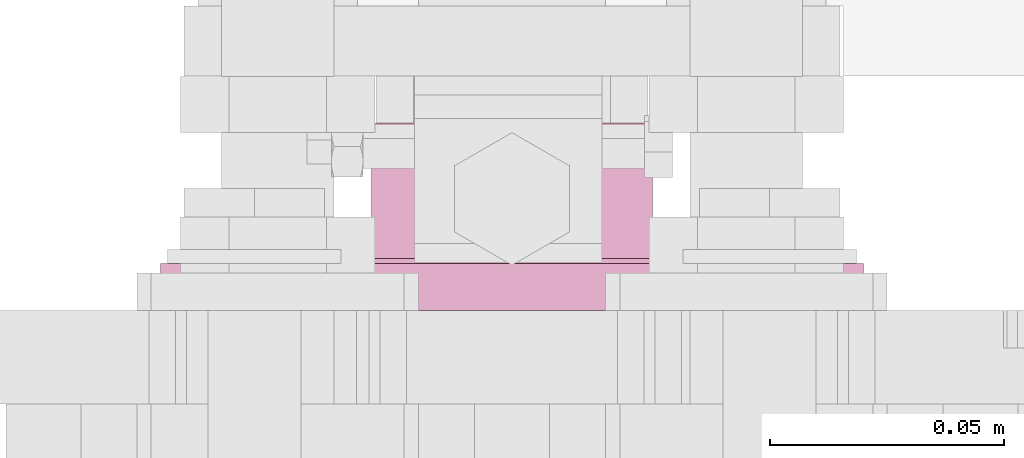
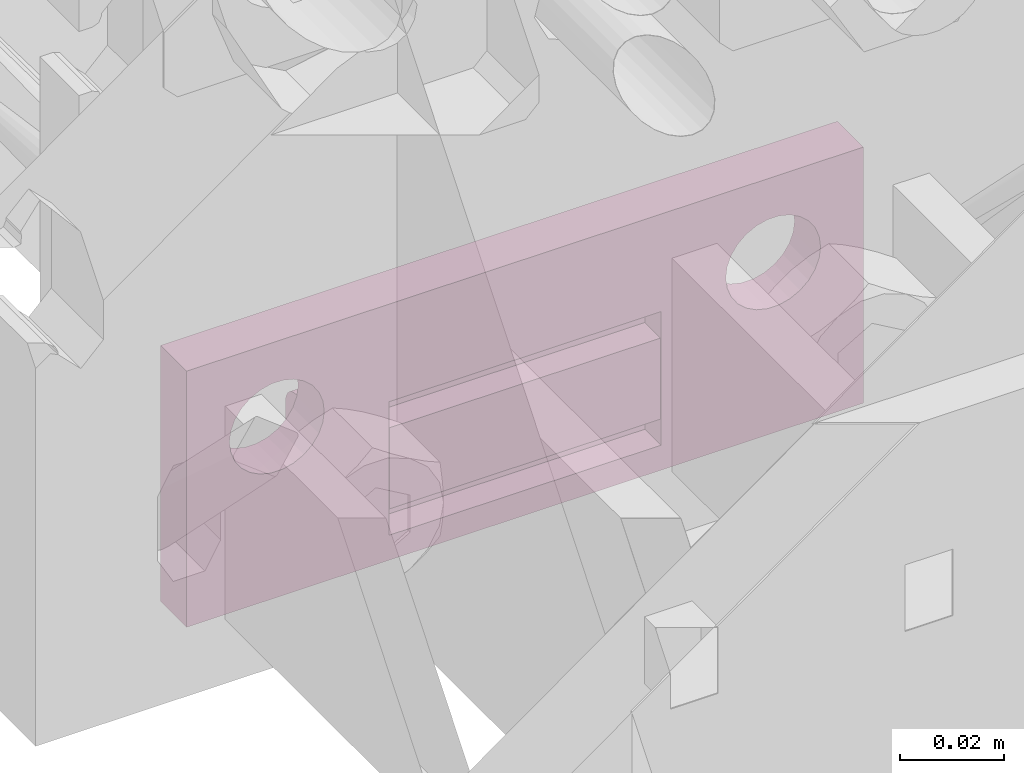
# One storey, part 10 of 17: 1 furnishing.
"""IFC2X3 building model written with IfcOpenShell, lengths in metres."""

from ifc_helpers import new_model, entity, si_unit, converted_unit, derived_unit, direction, frame, frame_2d, origin, place, context, subcontext, project, spatial, polyline, circle_curve, parameter, trimmed, segment, composite_curve, outline, extrude, source, transform, mapped, material, type_object, type_shapes, element, save


model = new_model("IFC2X3")

# Units and contexts
model_context = context("Model", 3, precision=1e-05, world=origin(), true_north=direction((6.123031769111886e-17, 1.0)))
plan_context = context("Plan", 3, precision=1e-05, world=origin(), true_north=direction((6.123031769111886e-17, 1.0)))
body_context = subcontext(model_context, "Body", "Model", "MODEL_VIEW")
ifc_project = project(units=[si_unit("LENGTHUNIT", "METRE"), si_unit("AREAUNIT", "SQUARE_METRE"), converted_unit("PLANEANGLEUNIT", "DEGREE", entity("IfcPlaneAngleMeasure", 0.017453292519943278), si_unit("PLANEANGLEUNIT", "RADIAN"), dimensions=[0, 0, 0, 0, 0, 0, 0]), si_unit("VOLUMEUNIT", "CUBIC_METRE"), derived_unit("THERMALTRANSMITTANCEUNIT", [(si_unit("MASSUNIT", "GRAM", prefix="KILO"), 1), (si_unit("THERMODYNAMICTEMPERATUREUNIT", "KELVIN"), -1), (si_unit("TIMEUNIT", "SECOND"), -3)]), derived_unit("USERDEFINED", [(si_unit("MASSUNIT", "GRAM", prefix="KILO"), 1), (si_unit("THERMODYNAMICTEMPERATUREUNIT", "KELVIN"), -1), (si_unit("TIMEUNIT", "SECOND"), -2)]), derived_unit("THERMALRESISTANCEUNIT", [(si_unit("MASSUNIT", "GRAM", prefix="KILO"), -1), (si_unit("TIMEUNIT", "SECOND"), 3), (si_unit("THERMODYNAMICTEMPERATUREUNIT", "KELVIN"), 1)]), si_unit("PRESSUREUNIT", "PASCAL"), derived_unit("MASSDENSITYUNIT", [(si_unit("MASSUNIT", "GRAM", prefix="KILO"), 1), (si_unit("LENGTHUNIT", "METRE"), -3)]), derived_unit("VAPORPERMEABILITYUNIT", [(si_unit("LENGTHUNIT", "METRE"), -1), (si_unit("TIMEUNIT", "SECOND"), 1)]), derived_unit("USERDEFINED", [(si_unit("MASSUNIT", "GRAM", prefix="KILO"), 1), (si_unit("TIMEUNIT", "SECOND"), -3), (si_unit("LENGTHUNIT", "METRE"), 3), (si_unit("ELECTRICCURRENTUNIT", "AMPERE"), -2)])], contexts=[model_context, plan_context])

# Site, building, storey
site_placement = place(None, origin())
site = spatial("IfcSite", under=ifc_project, at=site_placement, Name="Default", CompositionType="ELEMENT")
building_placement = place(site_placement, origin())
building = spatial("IfcBuilding", under=site, at=building_placement, CompositionType="ELEMENT")
storey_placement = place(building_placement, origin())
storey = spatial("IfcBuildingStorey", under=building, at=storey_placement, Name="L0", CompositionType="ELEMENT", Elevation=0.0)

# Furnishing
ifc_material = material(Name="REC_Acero, S 275JR (Zincado)")
furniture_type = type_object("IfcFurnitureType", Name="REC_FBAIGCEQ:FBAIGCEQ", AssemblyPlace="NOTDEFINED", material=ifc_material)
shared_shape = source(origin(), body_context, "Body", "SweptSolid", [
    extrude(outline(composite_curve([segment(polyline([(-0.005276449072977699, -0.016578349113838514), (0.013723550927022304, -0.016578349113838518)]), True, "CONTINUOUS"), segment(polyline([(0.01372355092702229, -0.016578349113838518), (0.013723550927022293, -0.010578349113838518)]), True, "CONTINUOUS"), segment(polyline([(0.013723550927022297, -0.010578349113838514), (0.0197235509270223, -0.010578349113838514)]), True, "CONTINUOUS"), segment(polyline([(0.0197235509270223, -0.010578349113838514), (0.0197235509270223, -0.006578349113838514)]), True, "CONTINUOUS"), segment(polyline([(0.019723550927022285, -0.00657834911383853), (0.014744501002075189, -0.005535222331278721)]), True, "CONTINUOUS"), segment(trimmed(circle_curve(frame_2d((0.014436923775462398, -0.007003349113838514), x_axis=(-1.0, 0.0)), 0.0015000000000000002), [parameter(258.1674870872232)], [parameter(288.1948723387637)], True, "PARAMETER"), True, "CONTINUOUS"), segment(trimmed(circle_curve(frame_2d((0.007723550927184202, 0.013421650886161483), x_axis=(-1.0, 0.0)), 0.02), [parameter(71.80512766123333)], [parameter(108.1948723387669)], True, "PARAMETER"), False, "CONTINUOUS"), segment(polyline([(0.0014785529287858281, -0.005578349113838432), (-0.003149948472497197, -0.004057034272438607)]), True, "CONTINUOUS"), segment(trimmed(circle_curve(frame_2d((-0.0012764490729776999, 0.001642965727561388), x_axis=(-1.0, 0.0)), 0.006000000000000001), [parameter(0.0)], [parameter(71.80512766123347)], True, "PARAMETER"), False, "CONTINUOUS"), segment(polyline([(-0.007276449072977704, 0.0016429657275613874), (-0.007276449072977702, 0.00875220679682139)]), True, "CONTINUOUS"), segment(trimmed(circle_curve(frame_2d((-0.004276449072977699, 0.008752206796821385), x_axis=(-1.0, 0.0)), 0.0030000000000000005), [parameter(290.0)], [parameter(0.0)], True, "PARAMETER"), False, "CONTINUOUS"), segment(polyline([(-0.005302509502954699, 0.011571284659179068), (-0.0015924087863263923, 0.012921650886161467)]), True, "CONTINUOUS"), segment(trimmed(circle_curve(frame_2d((-0.0022764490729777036, 0.014801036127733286), x_axis=(-1.0, 0.0)), 0.002), [parameter(109.99999999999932)], [parameter(180.0000000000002)], True, "PARAMETER"), True, "CONTINUOUS"), segment(polyline([(-0.00027644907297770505, 0.014801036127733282), (-0.0002764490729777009, 0.019421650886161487)]), True, "CONTINUOUS"), segment(trimmed(circle_curve(frame_2d((-0.004276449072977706, 0.019421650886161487), x_axis=(-1.0, 0.0)), 0.004), [parameter(179.9999999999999)], [parameter(269.9999999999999)], True, "PARAMETER"), True, "CONTINUOUS"), segment(polyline([(-0.004276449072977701, 0.023421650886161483), (-0.017276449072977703, 0.023421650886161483)]), True, "CONTINUOUS"), segment(polyline([(-0.017276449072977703, 0.023421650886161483), (-0.0172764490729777, -0.006578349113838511)]), True, "CONTINUOUS"), segment(polyline([(-0.017276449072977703, -0.006578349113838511), (-0.0112764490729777, -0.006578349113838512)]), True, "CONTINUOUS"), segment(polyline([(-0.011276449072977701, -0.006578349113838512), (-0.011276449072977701, -0.010578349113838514)]), True, "CONTINUOUS"), segment(polyline([(-0.011276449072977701, -0.010578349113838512), (-0.005276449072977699, -0.01057834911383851)]), True, "CONTINUOUS"), segment(polyline([(-0.005276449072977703, -0.010578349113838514), (-0.0052764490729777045, -0.016578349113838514)]), True, "CONTINUOUS")], self_intersect=False)), frame((0.0, 0.01727644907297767, 0.01657834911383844), z_axis=(1.0, 0.0, 0.0), x_axis=(0.0, 1.0, 0.0)), (0.0, 0.0, 1.0), 0.015),
    extrude(outline(composite_curve([segment(polyline([(-0.005276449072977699, -0.016578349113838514), (0.013723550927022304, -0.016578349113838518)]), True, "CONTINUOUS"), segment(polyline([(0.01372355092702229, -0.016578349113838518), (0.013723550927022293, -0.010578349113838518)]), True, "CONTINUOUS"), segment(polyline([(0.013723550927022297, -0.010578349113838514), (0.0197235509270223, -0.010578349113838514)]), True, "CONTINUOUS"), segment(polyline([(0.0197235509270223, -0.010578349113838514), (0.0197235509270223, -0.006578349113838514)]), True, "CONTINUOUS"), segment(polyline([(0.019723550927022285, -0.00657834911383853), (0.014744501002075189, -0.005535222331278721)]), True, "CONTINUOUS"), segment(trimmed(circle_curve(frame_2d((0.014436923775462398, -0.007003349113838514), x_axis=(-1.0, 0.0)), 0.0015000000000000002), [parameter(258.1674870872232)], [parameter(288.1948723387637)], True, "PARAMETER"), True, "CONTINUOUS"), segment(trimmed(circle_curve(frame_2d((0.007723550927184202, 0.013421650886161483), x_axis=(-1.0, 0.0)), 0.02), [parameter(71.80512766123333)], [parameter(108.1948723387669)], True, "PARAMETER"), False, "CONTINUOUS"), segment(polyline([(0.0014785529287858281, -0.005578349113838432), (-0.003149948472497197, -0.004057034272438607)]), True, "CONTINUOUS"), segment(trimmed(circle_curve(frame_2d((-0.0012764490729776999, 0.001642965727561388), x_axis=(-1.0, 0.0)), 0.006000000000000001), [parameter(0.0)], [parameter(71.80512766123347)], True, "PARAMETER"), False, "CONTINUOUS"), segment(polyline([(-0.007276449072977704, 0.0016429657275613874), (-0.007276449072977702, 0.00875220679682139)]), True, "CONTINUOUS"), segment(trimmed(circle_curve(frame_2d((-0.004276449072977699, 0.008752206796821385), x_axis=(-1.0, 0.0)), 0.0030000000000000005), [parameter(290.0)], [parameter(0.0)], True, "PARAMETER"), False, "CONTINUOUS"), segment(polyline([(-0.005302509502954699, 0.011571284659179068), (-0.0015924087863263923, 0.012921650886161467)]), True, "CONTINUOUS"), segment(trimmed(circle_curve(frame_2d((-0.0022764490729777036, 0.014801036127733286), x_axis=(-1.0, 0.0)), 0.002), [parameter(109.99999999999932)], [parameter(180.0000000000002)], True, "PARAMETER"), True, "CONTINUOUS"), segment(polyline([(-0.00027644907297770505, 0.014801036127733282), (-0.0002764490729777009, 0.019421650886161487)]), True, "CONTINUOUS"), segment(trimmed(circle_curve(frame_2d((-0.004276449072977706, 0.019421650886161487), x_axis=(-1.0, 0.0)), 0.004), [parameter(179.9999999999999)], [parameter(269.9999999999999)], True, "PARAMETER"), True, "CONTINUOUS"), segment(polyline([(-0.004276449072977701, 0.023421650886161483), (-0.017276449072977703, 0.023421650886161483)]), True, "CONTINUOUS"), segment(polyline([(-0.017276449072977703, 0.023421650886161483), (-0.0172764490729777, -0.006578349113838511)]), True, "CONTINUOUS"), segment(polyline([(-0.017276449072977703, -0.006578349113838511), (-0.0112764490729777, -0.006578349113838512)]), True, "CONTINUOUS"), segment(polyline([(-0.011276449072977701, -0.006578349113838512), (-0.011276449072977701, -0.010578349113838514)]), True, "CONTINUOUS"), segment(polyline([(-0.011276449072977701, -0.010578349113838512), (-0.005276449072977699, -0.01057834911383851)]), True, "CONTINUOUS"), segment(polyline([(-0.005276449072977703, -0.010578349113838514), (-0.0052764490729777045, -0.016578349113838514)]), True, "CONTINUOUS")], self_intersect=False)), frame((-0.030000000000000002, 0.01727644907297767, 0.01657834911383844), z_axis=(1.0, 0.0, 0.0), x_axis=(0.0, 1.0, 0.0)), (0.0, 0.0, 1.0), 0.015),
    extrude(outline(composite_curve([segment(polyline([(-0.005276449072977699, -0.016578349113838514), (0.013723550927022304, -0.016578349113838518)]), True, "CONTINUOUS"), segment(polyline([(0.01372355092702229, -0.016578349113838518), (0.013723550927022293, -0.010578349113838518)]), True, "CONTINUOUS"), segment(polyline([(0.013723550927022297, -0.010578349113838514), (0.0197235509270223, -0.010578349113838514)]), True, "CONTINUOUS"), segment(polyline([(0.0197235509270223, -0.010578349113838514), (0.0197235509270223, -0.006578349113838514)]), True, "CONTINUOUS"), segment(polyline([(0.019723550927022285, -0.00657834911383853), (0.014744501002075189, -0.005535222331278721)]), True, "CONTINUOUS"), segment(trimmed(circle_curve(frame_2d((0.014436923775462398, -0.007003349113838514), x_axis=(-1.0, 0.0)), 0.0015000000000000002), [parameter(258.1674870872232)], [parameter(288.1948723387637)], True, "PARAMETER"), True, "CONTINUOUS"), segment(trimmed(circle_curve(frame_2d((0.007723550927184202, 0.013421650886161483), x_axis=(-1.0, 0.0)), 0.02), [parameter(71.80512766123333)], [parameter(108.1948723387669)], True, "PARAMETER"), False, "CONTINUOUS"), segment(polyline([(0.0014785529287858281, -0.005578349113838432), (-0.003149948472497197, -0.004057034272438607)]), True, "CONTINUOUS"), segment(trimmed(circle_curve(frame_2d((-0.0012764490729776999, 0.001642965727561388), x_axis=(-1.0, 0.0)), 0.006000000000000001), [parameter(0.0)], [parameter(71.80512766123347)], True, "PARAMETER"), False, "CONTINUOUS"), segment(polyline([(-0.007276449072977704, 0.0016429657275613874), (-0.007276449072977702, 0.00875220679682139)]), True, "CONTINUOUS"), segment(trimmed(circle_curve(frame_2d((-0.004276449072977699, 0.008752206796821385), x_axis=(-1.0, 0.0)), 0.0030000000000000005), [parameter(290.0)], [parameter(0.0)], True, "PARAMETER"), False, "CONTINUOUS"), segment(polyline([(-0.005302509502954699, 0.011571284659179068), (-0.0015924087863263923, 0.012921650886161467)]), True, "CONTINUOUS"), segment(trimmed(circle_curve(frame_2d((-0.0022764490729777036, 0.014801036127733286), x_axis=(-1.0, 0.0)), 0.002), [parameter(109.99999999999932)], [parameter(180.0000000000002)], True, "PARAMETER"), True, "CONTINUOUS"), segment(polyline([(-0.00027644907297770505, 0.014801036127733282), (-0.0002764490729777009, 0.019421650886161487)]), True, "CONTINUOUS"), segment(trimmed(circle_curve(frame_2d((-0.004276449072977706, 0.019421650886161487), x_axis=(-1.0, 0.0)), 0.004), [parameter(179.9999999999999)], [parameter(269.9999999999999)], True, "PARAMETER"), True, "CONTINUOUS"), segment(polyline([(-0.004276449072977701, 0.023421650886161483), (-0.017276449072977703, 0.023421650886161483)]), True, "CONTINUOUS"), segment(polyline([(-0.017276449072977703, 0.023421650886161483), (-0.0172764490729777, -0.006578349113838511)]), True, "CONTINUOUS"), segment(polyline([(-0.017276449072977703, -0.006578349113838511), (-0.0112764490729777, -0.006578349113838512)]), True, "CONTINUOUS"), segment(polyline([(-0.011276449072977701, -0.006578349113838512), (-0.011276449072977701, -0.010578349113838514)]), True, "CONTINUOUS"), segment(polyline([(-0.011276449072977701, -0.010578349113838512), (-0.005276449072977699, -0.01057834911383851)]), True, "CONTINUOUS"), segment(polyline([(-0.005276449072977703, -0.010578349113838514), (-0.0052764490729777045, -0.016578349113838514)]), True, "CONTINUOUS")], self_intersect=False)), frame((0.015000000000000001, 0.01727644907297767, 0.01657834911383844), z_axis=(1.0, 0.0, 0.0), x_axis=(0.0, 1.0, 0.0)), (0.0, 0.0, 1.0), 0.015),
    extrude(outline(composite_curve([segment(polyline([(-0.005276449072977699, -0.016578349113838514), (0.013723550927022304, -0.016578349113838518)]), True, "CONTINUOUS"), segment(polyline([(0.01372355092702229, -0.016578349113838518), (0.013723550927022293, -0.010578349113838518)]), True, "CONTINUOUS"), segment(polyline([(0.013723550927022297, -0.010578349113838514), (0.0197235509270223, -0.010578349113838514)]), True, "CONTINUOUS"), segment(polyline([(0.0197235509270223, -0.010578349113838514), (0.0197235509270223, -0.006578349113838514)]), True, "CONTINUOUS"), segment(polyline([(0.019723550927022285, -0.00657834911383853), (0.014744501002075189, -0.005535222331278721)]), True, "CONTINUOUS"), segment(trimmed(circle_curve(frame_2d((0.014436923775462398, -0.007003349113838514), x_axis=(-1.0, 0.0)), 0.0015000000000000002), [parameter(258.1674870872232)], [parameter(288.1948723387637)], True, "PARAMETER"), True, "CONTINUOUS"), segment(trimmed(circle_curve(frame_2d((0.007723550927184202, 0.013421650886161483), x_axis=(-1.0, 0.0)), 0.02), [parameter(71.80512766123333)], [parameter(108.1948723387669)], True, "PARAMETER"), False, "CONTINUOUS"), segment(polyline([(0.0014785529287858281, -0.005578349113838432), (-0.003149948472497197, -0.004057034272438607)]), True, "CONTINUOUS"), segment(trimmed(circle_curve(frame_2d((-0.0012764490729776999, 0.001642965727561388), x_axis=(-1.0, 0.0)), 0.006000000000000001), [parameter(0.0)], [parameter(71.80512766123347)], True, "PARAMETER"), False, "CONTINUOUS"), segment(polyline([(-0.007276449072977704, 0.0016429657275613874), (-0.007276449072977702, 0.00875220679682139)]), True, "CONTINUOUS"), segment(trimmed(circle_curve(frame_2d((-0.004276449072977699, 0.008752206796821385), x_axis=(-1.0, 0.0)), 0.0030000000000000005), [parameter(290.0)], [parameter(0.0)], True, "PARAMETER"), False, "CONTINUOUS"), segment(polyline([(-0.005302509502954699, 0.011571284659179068), (-0.0015924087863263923, 0.012921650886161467)]), True, "CONTINUOUS"), segment(trimmed(circle_curve(frame_2d((-0.0022764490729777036, 0.014801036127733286), x_axis=(-1.0, 0.0)), 0.002), [parameter(109.99999999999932)], [parameter(180.0000000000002)], True, "PARAMETER"), True, "CONTINUOUS"), segment(polyline([(-0.00027644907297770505, 0.014801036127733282), (-0.0002764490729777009, 0.019421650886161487)]), True, "CONTINUOUS"), segment(trimmed(circle_curve(frame_2d((-0.004276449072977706, 0.019421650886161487), x_axis=(-1.0, 0.0)), 0.004), [parameter(179.9999999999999)], [parameter(269.9999999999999)], True, "PARAMETER"), True, "CONTINUOUS"), segment(polyline([(-0.004276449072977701, 0.023421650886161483), (-0.017276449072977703, 0.023421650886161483)]), True, "CONTINUOUS"), segment(polyline([(-0.017276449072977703, 0.023421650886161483), (-0.0172764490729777, -0.006578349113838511)]), True, "CONTINUOUS"), segment(polyline([(-0.017276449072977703, -0.006578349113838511), (-0.0112764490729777, -0.006578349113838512)]), True, "CONTINUOUS"), segment(polyline([(-0.011276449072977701, -0.006578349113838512), (-0.011276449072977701, -0.010578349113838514)]), True, "CONTINUOUS"), segment(polyline([(-0.011276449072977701, -0.010578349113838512), (-0.005276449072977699, -0.01057834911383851)]), True, "CONTINUOUS"), segment(polyline([(-0.005276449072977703, -0.010578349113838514), (-0.0052764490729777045, -0.016578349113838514)]), True, "CONTINUOUS")], self_intersect=False)), frame((-0.015000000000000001, 0.01727644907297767, 0.01657834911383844), z_axis=(1.0, 0.0, 0.0), x_axis=(0.0, 1.0, 0.0)), (0.0, 0.0, 1.0), 0.015),
    extrude(outline(polyline([(-0.03, -0.07500000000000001), (0.03, -0.07500000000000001), (0.03, 0.07500000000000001), (-0.03, 0.07500000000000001), (-0.03, -0.07500000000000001)]), holes=[polyline([(0.02415000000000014, -0.030149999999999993), (-0.007149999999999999, -0.030149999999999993), (-0.007149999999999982, 0.03015000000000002), (0.024150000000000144, 0.030150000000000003), (0.02415000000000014, -0.030149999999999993)]), composite_curve([segment(trimmed(circle_curve(frame_2d((-0.010000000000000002, 0.055), x_axis=(0.0, 1.0)), 0.0105), [parameter(179.9999999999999)], [parameter(359.99999999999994)], True, "PARAMETER"), False, "CONTINUOUS"), segment(trimmed(circle_curve(frame_2d((-0.010000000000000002, 0.055), x_axis=(0.0, 1.0)), 0.0105), [parameter(0.0)], [parameter(180.00000000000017)], True, "PARAMETER"), False, "CONTINUOUS")], self_intersect=False), composite_curve([segment(trimmed(circle_curve(frame_2d((-0.010000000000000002, -0.055), x_axis=(0.0, 1.0)), 0.0105), [parameter(179.9999999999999)], [parameter(359.99999999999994)], True, "PARAMETER"), False, "CONTINUOUS"), segment(trimmed(circle_curve(frame_2d((-0.010000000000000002, -0.055), x_axis=(0.0, 1.0)), 0.0105), [parameter(0.0)], [parameter(180.00000000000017)], True, "PARAMETER"), False, "CONTINUOUS")], self_intersect=False)]), frame((0.0, 0.029999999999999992, 0.0), z_axis=(0.0, 0.0, 1.0), x_axis=(0.0, -1.0, 0.0)), (0.0, 0.0, 1.0), 0.01),
])
type_shapes(furniture_type, [shared_shape])
furnishing_placement = place(storey_placement, frame((5.18564026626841, 14.794530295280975, -0.1999999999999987), z_axis=(0.0, 1.0, 0.0), x_axis=(-1.0, 0.0, 0.0)))
element("IfcFurnishingElement", 1, at=furnishing_placement, inside=storey, type_object=furniture_type, material=ifc_material, Name="REC_FBAIGCEQ:FBAIGCEQ", ObjectType="REC_FBAIGCEQ:FBAIGCEQ", context=body_context, shape_type="MappedRepresentation", body=[
    mapped(shared_shape, transform((0.0, 0.0, 0.0), scale=1.0)),
])

save(model, "model.ifc")
